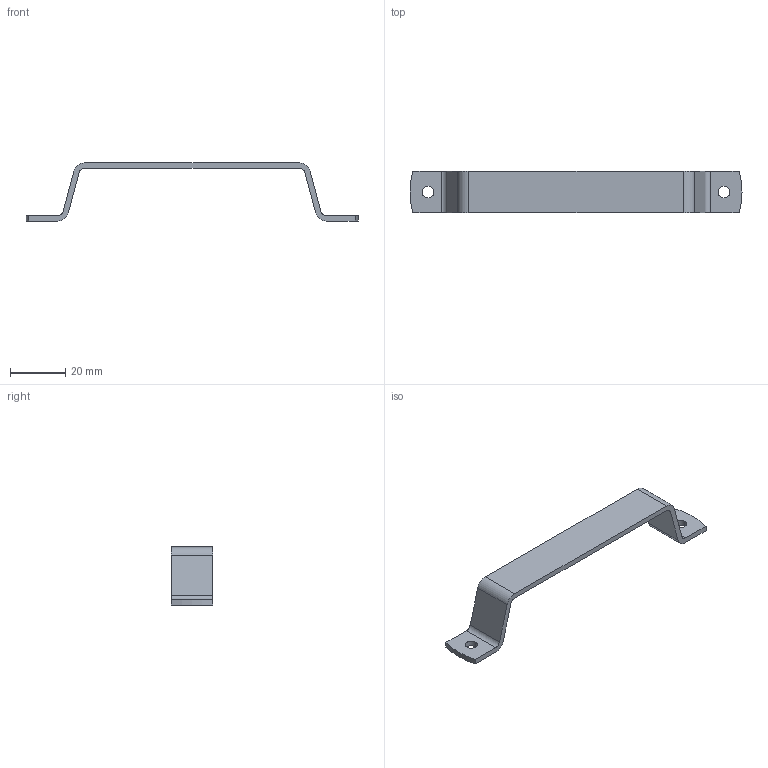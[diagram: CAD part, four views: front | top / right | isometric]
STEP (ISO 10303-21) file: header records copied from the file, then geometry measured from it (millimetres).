
FILE_DESCRIPTION((''),'2;1');
FILE_NAME('6409.stp','2023-10-09T16:18:13',(''),(''),'Mechanical Desktop 2006','Mechanical Desktop 2006',', , ');
FILE_SCHEMA(('CONFIG_CONTROL_DESIGN'));
Length unit declared in the file: millimetre
Products named in the file (1): 6409.04
Bounding box: 120 x 15 x 21 mm (x, y, z)
Volume: 4315.6 mm3; surface area: 5008.1 mm2
Topology: 1 solids, 1 shells, 26 faces, 72 edges, 48 vertices
Faces by surface type: cylinder 14, plane 12
Entity records: 947 total; most frequent: DIRECTION 154, CARTESIAN_POINT 147, ORIENTED_EDGE 144, EDGE_CURVE 72, AXIS2_PLACEMENT_3D 55, VERTEX_POINT 48, VECTOR 44, LINE 44
